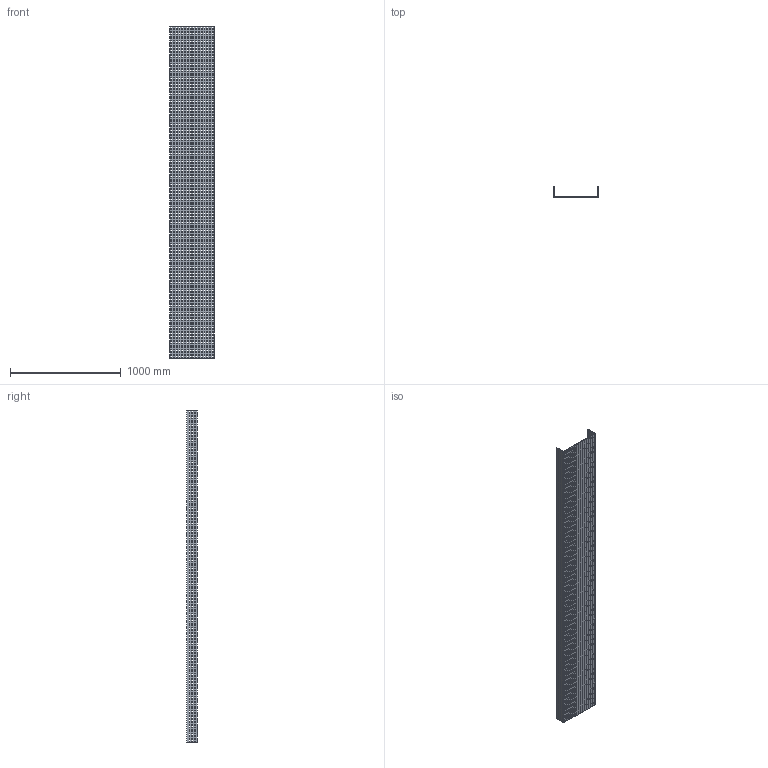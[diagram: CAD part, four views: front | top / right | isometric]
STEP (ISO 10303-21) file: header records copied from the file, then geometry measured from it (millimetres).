
FILE_DESCRIPTION (( 'STEP AP214' ), '1' );
FILE_NAME ('01B3I400.step', '2025-02-21T10:24:50', ( '' ), ( '' ), 'SwSTEP 2.0', 'SolidWorks 2023', '' );
FILE_SCHEMA (( 'AUTOMOTIVE_DESIGN' ));
Products named in the file (1): 01B3I400
Bounding box: 404 x 92.5 x 3000 mm (x, y, z)
Volume: 5140800 mm3; surface area: 3317490 mm2
Topology: 1 solids, 1 shells, 6346 faces, 19032 edges, 12688 vertices
Faces by surface type: plane 6346
Entity records: 215735 total; most frequent: CARTESIAN_POINT 38067, ORIENTED_EDGE 38064, DIRECTION 31726, EDGE_CURVE 19032, LINE 19032, VECTOR 19032, VERTEX_POINT 12688, EDGE_LOOP 9514
